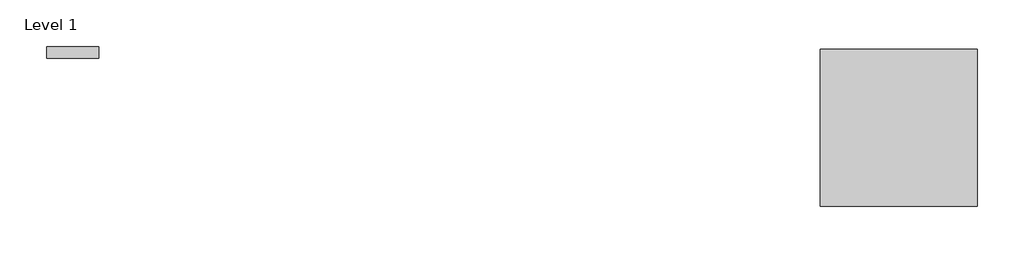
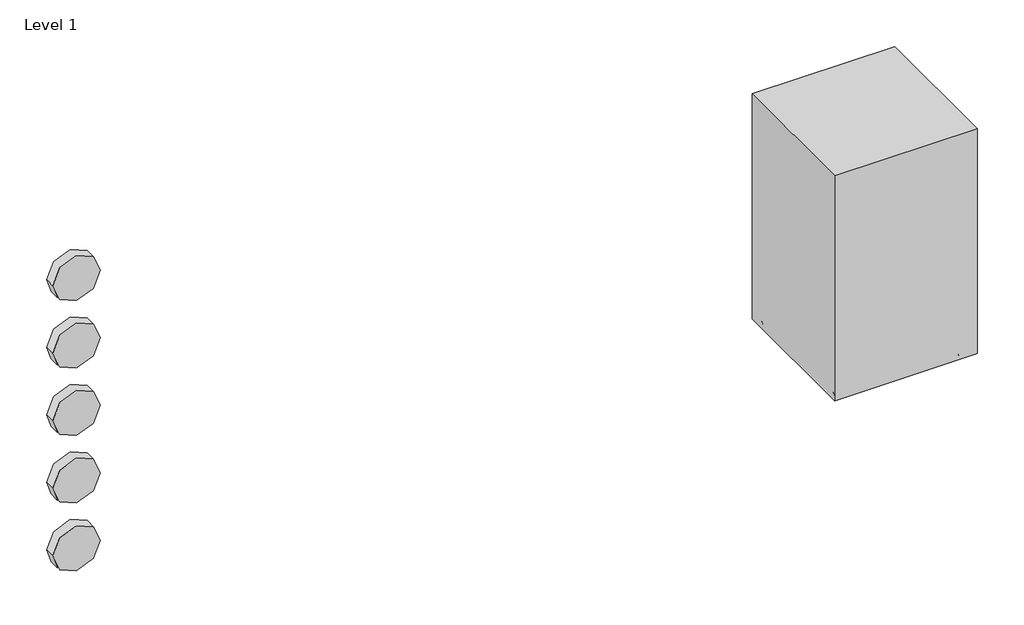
# One storey: 5 proxies, 1 furniture element.
"""IFC4 building model written with IfcOpenShell, lengths in millimetres."""

from ifc_helpers import new_model, si_unit, origin, place, context, project, spatial, transform, mapped, element, save
from components import materialmodel_materialmodel_aa49be07, furniture_1b8913a1

model = new_model("IFC4")

# Units and contexts
model_context = context("Model", 3, world=origin())
ifc_project = project(units=[si_unit("LENGTHUNIT", "METRE", prefix="MILLI")], contexts=[model_context])

# Site, building, storey
site = spatial("IfcSite", under=ifc_project)
building = spatial("IfcBuilding", under=site)
storey = spatial("IfcBuildingStorey", under=building, Name="Level 1", Elevation=0.0)

# Proxies
placement = place(None, origin())
materialmodel_materialmodel_shape = materialmodel_materialmodel_aa49be07(model_context)
element("IfcBuildingElementProxy", 1, Name="MaterialModel : MaterialModel", ObjectType="MaterialModel : MaterialModel", at=placement, inside=storey, context=model_context, shape_type="MappedRepresentation", body=[
    mapped(materialmodel_materialmodel_shape, transform((-4168.3714612, 3483.5454579, 600.0), x_axis=(1.0, 0.0, 0.0), y_axis=(0.0, 1.0, 0.0), z_axis=(0.0, 0.0, 1.0))),
])
element("IfcBuildingElementProxy", 2, Name="MaterialModel : MaterialModel", ObjectType="MaterialModel : MaterialModel", at=placement, inside=storey, context=model_context, shape_type="MappedRepresentation", body=[
    mapped(materialmodel_materialmodel_shape, transform((-4168.3714612, 3483.5454579, 450.0), x_axis=(1.0, 0.0, 0.0), y_axis=(0.0, 1.0, 0.0), z_axis=(0.0, 0.0, 1.0))),
])
element("IfcBuildingElementProxy", 3, Name="MaterialModel : MaterialModel", ObjectType="MaterialModel : MaterialModel", at=placement, inside=storey, context=model_context, shape_type="MappedRepresentation", body=[
    mapped(materialmodel_materialmodel_shape, transform((-4168.3714612, 3483.5454579, 300.0), x_axis=(1.0, 0.0, 0.0), y_axis=(0.0, 1.0, 0.0), z_axis=(0.0, 0.0, 1.0))),
])
element("IfcBuildingElementProxy", 4, Name="MaterialModel : MaterialModel", ObjectType="MaterialModel : MaterialModel", at=placement, inside=storey, context=model_context, shape_type="MappedRepresentation", body=[
    mapped(materialmodel_materialmodel_shape, transform((-4168.3714612, 3483.5454579, 150.0), x_axis=(1.0, 0.0, 0.0), y_axis=(0.0, 1.0, 0.0), z_axis=(0.0, 0.0, 1.0))),
])
element("IfcBuildingElementProxy", 5, Name="MaterialModel : MaterialModel", ObjectType="MaterialModel : MaterialModel", at=placement, inside=storey, context=model_context, shape_type="MappedRepresentation", body=[
    mapped(materialmodel_materialmodel_shape, transform((-4168.3714612, 3483.5454579, 0.0), x_axis=(1.0, 0.0, 0.0), y_axis=(0.0, 1.0, 0.0), z_axis=(0.0, 0.0, 1.0))),
])

# Furniture
furniture_shape = furniture_1b8913a1(model_context)
element("IfcFurniture", 6, ObjectType="Audo Copenhagen - Plinth - Tall : Audo Copenhagen - Plinth - Tall", at=placement, inside=storey, context=model_context, shape_type="MappedRepresentation", body=[
    mapped(furniture_shape, transform((-2590.4649448, 3339.4670228, 0.0), x_axis=(1.0, 0.0, 0.0), y_axis=(0.0, 1.0, 0.0), z_axis=(0.0, 0.0, 1.0))),
])

save(model, "model.ifc")
